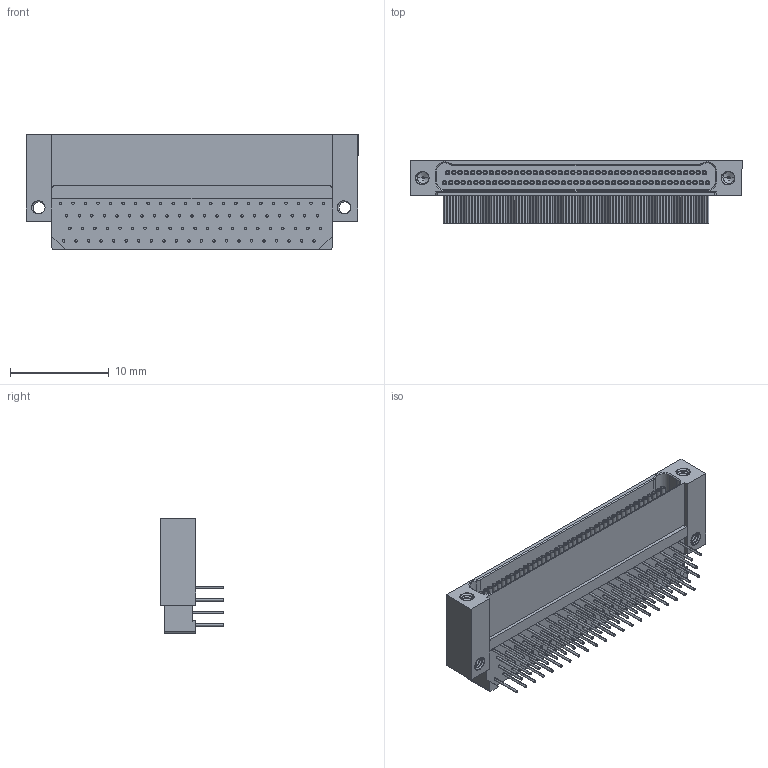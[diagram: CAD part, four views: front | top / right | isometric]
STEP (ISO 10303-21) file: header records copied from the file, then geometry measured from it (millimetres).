
FILE_DESCRIPTION (( 'STEP AP214' ), '1' );
FILE_NAME ('A29400-085 REV C.STEP', '2014-04-23T12:32:40', ( '' ), ( '' ), 'SwSTEP 2.0', 'SolidWorks 2012', '' );
FILE_SCHEMA (( 'AUTOMOTIVE_DESIGN' ));
Length unit declared in the file: inch
Products named in the file (1): A29400-085
Bounding box: 33.66 x 6.36 x 11.63 mm (x, y, z)
Volume: 964.9 mm3; surface area: 1962.4 mm2
Topology: 1 solids, 1 shells, 1070 faces, 2391 edges, 1588 vertices
Faces by surface type: cylinder 598, plane 400, bspline 62, cone 10
Entity records: 41017 total; most frequent: CARTESIAN_POINT 15894, DIRECTION 5183, ORIENTED_EDGE 4778, EDGE_CURVE 2389, AXIS2_PLACEMENT_3D 2073, VERTEX_POINT 1588, EDGE_LOOP 1345, FACE_OUTER_BOUND 1070
